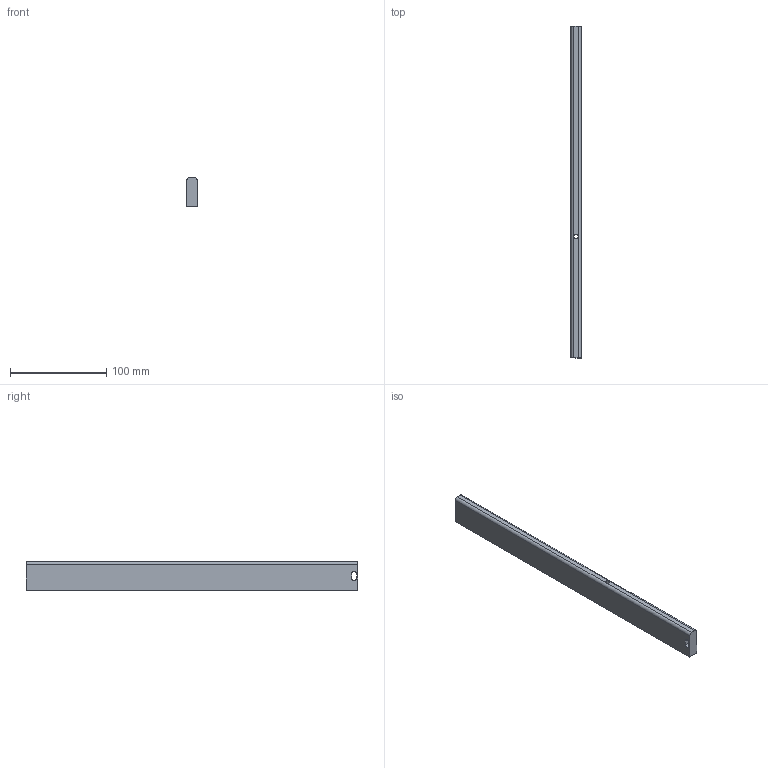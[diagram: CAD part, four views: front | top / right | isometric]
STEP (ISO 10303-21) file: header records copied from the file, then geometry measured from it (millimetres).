
FILE_DESCRIPTION (( 'STEP AP214' ), '1' );
FILE_NAME ('_Seitenreling_S760610200_RL345.step', '2010-09-06T14:51:43', ( 'grass' ), ( '' ), 'SwSTEP 2.0', 'SolidWorks 2010', '' );
FILE_SCHEMA (( 'AUTOMOTIVE_DESIGN' ));
Length unit declared in the file: millimetre
Products named in the file (1): _Seitenreling_S760610200_RL345
Bounding box: 10.5 x 345 x 30 mm (x, y, z)
Volume: 105954.6 mm3; surface area: 28397.9 mm2
Topology: 1 solids, 1 shells, 18 faces, 46 edges, 30 vertices
Faces by surface type: plane 10, cylinder 8
Entity records: 594 total; most frequent: DIRECTION 102, CARTESIAN_POINT 95, ORIENTED_EDGE 92, EDGE_CURVE 46, AXIS2_PLACEMENT_3D 37, VERTEX_POINT 30, VECTOR 28, LINE 28
